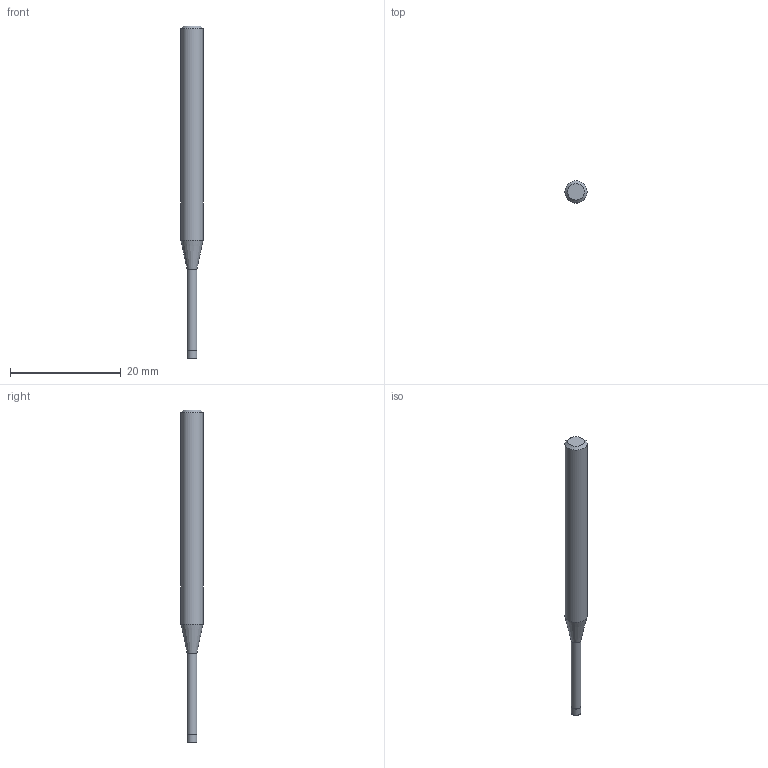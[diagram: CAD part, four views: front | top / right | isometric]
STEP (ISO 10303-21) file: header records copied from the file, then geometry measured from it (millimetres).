
FILE_DESCRIPTION((''),'2;1');
FILE_NAME('C:\Users\nsx150\AppData\Local\Temp\Mastercam 2021\3SYKECWX22\TEMP.step','2021-04-22T09:39:13',(''),(''),'STEP Write','Mastercam 2021 ... CNC Software, Inc.','');
FILE_SCHEMA(('AUTOMOTIVE_DESIGN'));
Length unit declared in the file: millimetre
Products named in the file (1): None
Bounding box: 4 x 4 x 60 mm (x, y, z)
Volume: 559.1 mm3; surface area: 638.9 mm2
Topology: 2 solids, 2 shells, 9 faces, 12 edges, 7 vertices
Faces by surface type: plane 4, cylinder 3, cone 2
Full cylindrical faces by diameter (mm): 1.74 x1, 1.8 x1, 4 x1
Entity records: 211 total; most frequent: DIRECTION 36, CARTESIAN_POINT 25, AXIS2_PLACEMENT_3D 18, ORIENTED_EDGE 14, EDGE_LOOP 14, STYLED_ITEM 12, ADVANCED_FACE 9, FACE_BOUND 8
